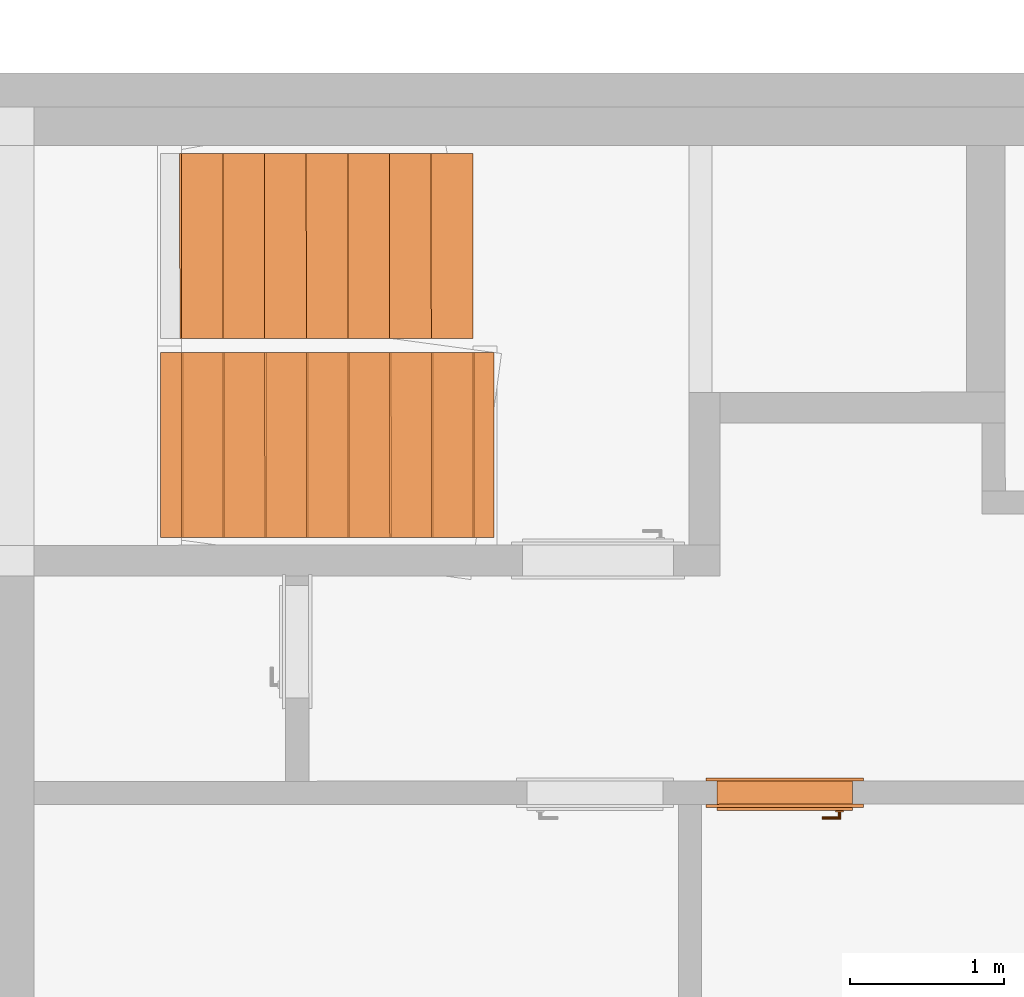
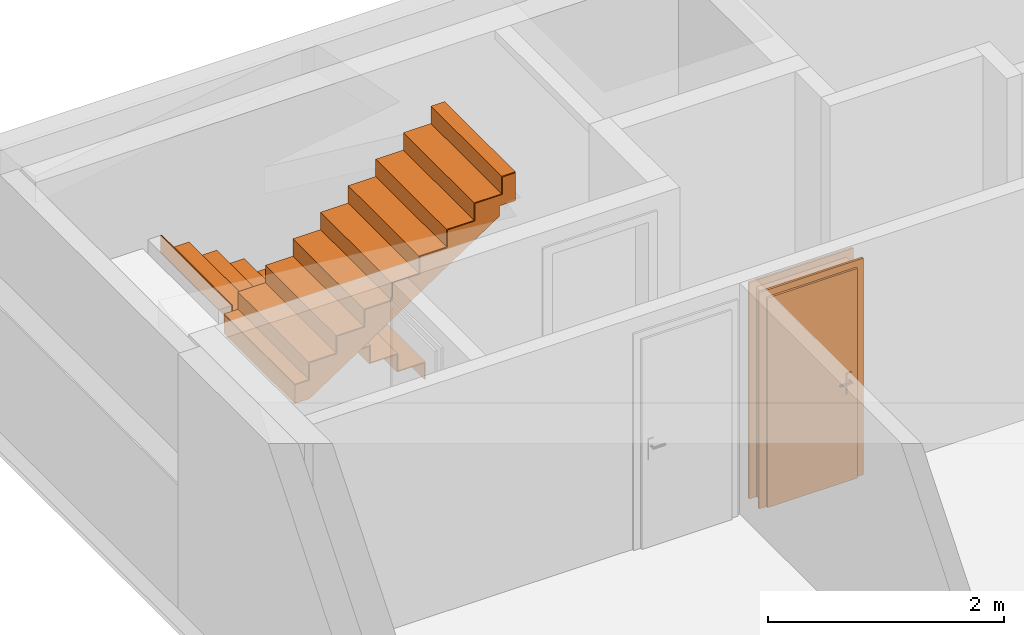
# One storey, part 5 of 9: 4 proxies.
"""IFC2X3 building model written with IfcOpenShell, lengths in metres."""

from ifc_helpers import new_model, entity, si_unit, converted_unit, derived_unit, direction, frame, origin, origin_with_axes, place, context, subcontext, project, spatial, faceted_brep, source, transform, mapped, element, save


model = new_model("IFC2X3")

# Units and contexts
model_context = context("Model", 3, precision=1e-05, world=origin(), true_north=direction((0.772621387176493, -0.634867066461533)))
body_context = subcontext(model_context, "Body", "Model", "MODEL_VIEW")
ifc_project = project(units=[si_unit("LENGTHUNIT", "METRE"), si_unit("AREAUNIT", "SQUARE_METRE"), si_unit("VOLUMEUNIT", "CUBIC_METRE"), si_unit("MASSUNIT", "GRAM", prefix="KILO"), converted_unit("PLANEANGLEUNIT", "DEGREE", entity("IfcPlaneAngleMeasure", 0.0174532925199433), si_unit("PLANEANGLEUNIT", "RADIAN"), dimensions=[0, 0, 0, 0, 0, 0, 0]), derived_unit("THERMALTRANSMITTANCEUNIT", [(si_unit("POWERUNIT", "WATT"), 1), (si_unit("THERMODYNAMICTEMPERATUREUNIT", "KELVIN"), -1), (si_unit("LENGTHUNIT", "METRE"), -2)]), derived_unit("VOLUMETRICFLOWRATEUNIT", [(si_unit("LENGTHUNIT", "METRE"), 3), (converted_unit("TIMEUNIT", "hour", entity("IfcTimeMeasure", 3600.0), si_unit("TIMEUNIT", "SECOND"), dimensions=[0, 0, 1, 0, 0, 0, 0]), -1), (si_unit("LENGTHUNIT", "METRE"), -1)])], contexts=[model_context])

# Site, building, storey
site_placement = place(None, origin())
site = spatial("IfcSite", under=ifc_project, at=site_placement, Name="Modelle auf dem Nullpunkt", CompositionType="ELEMENT")
building_placement = place(site_placement, origin())
building = spatial("IfcBuilding", under=site, at=building_placement, Name="I", CompositionType="ELEMENT")
storey_placement = place(building_placement, origin())
storey = spatial("IfcBuildingStorey", under=building, at=storey_placement, Name="UG", CompositionType="ELEMENT", Elevation=0.0)

# Proxies
shared_shape = source(origin_with_axes(), body_context, "Body", "Brep", [
    faceted_brep([(0.070000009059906, 0.190000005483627, 2.17), (0.070000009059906, 0.190000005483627, 0.0), (0.0900000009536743, 0.190000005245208, 0.0), (0.0900000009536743, 0.190000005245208, 2.17), (0.070000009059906, 0.0, 0.0), (0.070000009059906, 0.0, 2.17), (0.0900000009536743, 0.0, 2.17), (0.0900000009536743, 0.0, 0.0)], [[[0, 1, 2, 3]], [[4, 5, 6, 7]], [[1, 0, 5, 4]], [[2, 1, 4, 7]], [[3, 2, 7, 6]], [[0, 3, 6, 5]]], orient=[[False], [False], [False], [False], [False], [False]]),
    faceted_brep([(0.070000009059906, 0.190000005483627, 2.24), (0.0, 0.190000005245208, 2.24), (0.0, 0.190000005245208, 0.0), (0.070000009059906, 0.190000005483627, 0.0), (0.070000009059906, 0.170000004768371, 0.0), (0.0, 0.170000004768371, 0.0), (0.0, 0.170000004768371, 2.24), (0.070000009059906, 0.170000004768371, 2.24)], [[[0, 1, 2, 3]], [[4, 5, 6, 7]], [[3, 4, 7, 0]], [[2, 5, 4, 3]], [[1, 6, 5, 2]], [[0, 7, 6, 1]]], orient=[[False], [False], [False], [False], [False], [False]]),
    faceted_brep([(0.070000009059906, 0.0200000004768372, 2.24), (0.0, 0.0200000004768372, 2.24), (0.0, 0.0200000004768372, 0.0), (0.070000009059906, 0.0200000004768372, 0.0), (0.070000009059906, 0.0, 0.0), (0.0, 0.0, 0.0), (0.0, 0.0, 2.24), (0.070000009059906, 0.0, 2.24)], [[[0, 1, 2, 3]], [[4, 5, 6, 7]], [[3, 4, 7, 0]], [[2, 5, 4, 3]], [[1, 6, 5, 2]], [[0, 7, 6, 1]]], orient=[[False], [False], [False], [False], [False], [False]]),
    faceted_brep([(0.930000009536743, 0.190000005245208, 2.17), (0.930000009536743, 0.190000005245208, 0.0), (0.950000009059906, 0.190000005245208, 0.0), (0.950000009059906, 0.190000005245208, 2.17), (0.930000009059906, 0.0, 0.0), (0.930000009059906, 0.0, 2.17), (0.950000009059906, 0.0, 2.17), (0.950000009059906, 0.0, 0.0)], [[[0, 1, 2, 3]], [[4, 5, 6, 7]], [[1, 0, 5, 4]], [[2, 1, 4, 7]], [[3, 2, 7, 6]], [[0, 3, 6, 5]]], orient=[[False], [False], [False], [False], [False], [False]]),
    faceted_brep([(0.950000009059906, 0.190000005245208, 2.24), (0.950000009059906, 0.190000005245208, 0.0), (1.02000000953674, 0.190000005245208, 0.0), (1.02000000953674, 0.190000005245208, 2.24), (0.950000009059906, 0.170000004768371, 0.0), (0.950000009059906, 0.170000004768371, 2.24), (1.02000000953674, 0.17000000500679, 2.24), (1.02000000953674, 0.17000000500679, 0.0)], [[[0, 1, 2, 3]], [[4, 5, 6, 7]], [[1, 0, 5, 4]], [[2, 1, 4, 7]], [[3, 2, 7, 6]], [[0, 3, 6, 5]]], orient=[[False], [False], [False], [False], [False], [False]]),
    faceted_brep([(0.950000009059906, 0.0200000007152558, 2.24), (0.950000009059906, 0.0200000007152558, 0.0), (1.02000001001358, 0.0200000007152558, 0.0), (1.02000001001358, 0.0200000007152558, 2.24), (0.950000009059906, 0.0, 0.0), (0.950000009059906, 0.0, 2.24), (1.02000001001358, 0.0, 2.24), (1.02000001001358, 0.0, 0.0)], [[[0, 1, 2, 3]], [[4, 5, 6, 7]], [[1, 0, 5, 4]], [[2, 1, 4, 7]], [[3, 2, 7, 6]], [[0, 3, 6, 5]]], orient=[[False], [False], [False], [False], [False], [False]]),
    faceted_brep([(0.0900000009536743, 0.190000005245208, 2.17), (0.0900000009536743, 0.190000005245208, 2.15), (0.930000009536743, 0.190000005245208, 2.15), (0.930000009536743, 0.190000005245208, 2.17), (0.0900000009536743, 0.0, 2.15), (0.0900000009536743, 0.0, 2.17), (0.930000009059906, 0.0, 2.17), (0.930000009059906, 0.0, 2.15)], [[[0, 1, 2, 3]], [[4, 5, 6, 7]], [[1, 0, 5, 4]], [[2, 1, 4, 7]], [[3, 2, 7, 6]], [[0, 3, 6, 5]]], orient=[[False], [False], [False], [False], [False], [False]]),
    faceted_brep([(0.070000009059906, 0.190000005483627, 2.24), (0.070000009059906, 0.190000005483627, 2.17), (0.950000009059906, 0.190000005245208, 2.17), (0.950000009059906, 0.190000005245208, 2.24), (0.070000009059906, 0.170000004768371, 2.17), (0.070000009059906, 0.170000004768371, 2.24), (0.950000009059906, 0.170000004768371, 2.24), (0.950000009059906, 0.170000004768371, 2.17)], [[[0, 1, 2, 3]], [[4, 5, 6, 7]], [[1, 0, 5, 4]], [[2, 1, 4, 7]], [[3, 2, 7, 6]], [[0, 3, 6, 5]]], orient=[[False], [False], [False], [False], [False], [False]]),
    faceted_brep([(0.070000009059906, 0.0200000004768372, 2.24), (0.070000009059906, 0.0200000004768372, 2.17), (0.950000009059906, 0.0200000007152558, 2.17), (0.950000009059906, 0.0200000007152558, 2.24), (0.070000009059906, 0.0, 2.17), (0.070000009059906, 0.0, 2.24), (0.950000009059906, 0.0, 2.24), (0.950000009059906, 0.0, 2.17)], [[[0, 1, 2, 3]], [[4, 5, 6, 7]], [[1, 0, 5, 4]], [[2, 1, 4, 7]], [[3, 2, 7, 6]], [[0, 3, 6, 5]]], orient=[[False], [False], [False], [False], [False], [False]]),
    faceted_brep([(0.070000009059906, 0.210000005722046, 2.17), (0.070000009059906, 0.210000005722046, 0.0), (0.950000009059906, 0.210000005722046, 0.0), (0.950000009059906, 0.210000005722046, 2.17), (0.070000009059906, 0.170000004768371, 0.0), (0.070000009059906, 0.170000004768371, 2.17), (0.950000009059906, 0.170000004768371, 2.17), (0.950000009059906, 0.170000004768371, 0.0)], [[[0, 1, 2, 3]], [[4, 5, 6, 7]], [[1, 0, 5, 4]], [[2, 1, 4, 7]], [[3, 2, 7, 6]], [[0, 3, 6, 5]]], orient=[[False], [False], [False], [False], [False], [False]]),
    faceted_brep([(0.130000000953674, 0.17000000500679, 1.125), (0.130000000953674, 0.17000000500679, 0.91), (0.180000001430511, 0.170000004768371, 0.91), (0.180000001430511, 0.170000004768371, 1.125), (0.130000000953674, 0.160000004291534, 0.91), (0.130000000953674, 0.160000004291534, 1.125), (0.180000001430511, 0.160000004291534, 1.125), (0.180000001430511, 0.160000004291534, 0.91)], [[[0, 1, 2, 3]], [[4, 5, 6, 7]], [[1, 0, 5, 4]], [[2, 1, 4, 7]], [[3, 2, 7, 6]], [[0, 3, 6, 5]]], orient=[[False], [False], [False], [False], [False], [False]]),
    faceted_brep([(0.155000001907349, 0.160000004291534, 1.06), (0.150000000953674, 0.160000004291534, 1.05866025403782), (0.146339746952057, 0.160000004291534, 1.055), (0.145000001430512, 0.160000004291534, 1.05), (0.146339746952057, 0.160000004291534, 1.045), (0.150000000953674, 0.160000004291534, 1.04133974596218), (0.155000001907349, 0.160000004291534, 1.04), (0.160000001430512, 0.160000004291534, 1.04133974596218), (0.163660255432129, 0.160000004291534, 1.045), (0.165000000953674, 0.160000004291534, 1.05), (0.163660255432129, 0.160000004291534, 1.055), (0.160000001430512, 0.160000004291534, 1.05866025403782), (0.155000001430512, 0.12000000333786, 1.06), (0.150000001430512, 0.11500000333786, 1.05866025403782), (0.146339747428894, 0.111339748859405, 1.055), (0.145000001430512, 0.110000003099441, 1.05), (0.146339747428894, 0.111339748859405, 1.045), (0.150000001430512, 0.11500000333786, 1.04133974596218), (0.155000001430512, 0.12000000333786, 1.04), (0.160000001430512, 0.125000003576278, 1.04133974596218), (0.163660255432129, 0.128660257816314, 1.045), (0.165000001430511, 0.130000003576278, 1.05), (0.163660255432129, 0.128660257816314, 1.055), (0.160000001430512, 0.125000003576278, 1.05866025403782), (0.270000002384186, 0.12000000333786, 1.06), (0.270000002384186, 0.125000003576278, 1.05866025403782), (0.270000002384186, 0.128660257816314, 1.055), (0.270000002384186, 0.130000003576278, 1.05), (0.270000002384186, 0.128660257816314, 1.045), (0.270000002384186, 0.125000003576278, 1.04133974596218), (0.270000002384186, 0.12000000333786, 1.04), (0.270000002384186, 0.115000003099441, 1.04133974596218), (0.270000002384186, 0.111339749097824, 1.045), (0.270000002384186, 0.110000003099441, 1.05), (0.270000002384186, 0.111339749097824, 1.055), (0.270000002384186, 0.115000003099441, 1.05866025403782)], [[[0, 1, 2, 3, 4, 5, 6, 7, 8, 9, 10, 11]], [[0, 12, 13, 1]], [[1, 13, 14, 2]], [[2, 14, 15, 3]], [[3, 15, 16, 4]], [[4, 16, 17, 5]], [[5, 17, 18, 6]], [[6, 18, 19, 7]], [[7, 19, 20, 8]], [[8, 20, 21, 9]], [[9, 21, 22, 10]], [[10, 22, 23, 11]], [[11, 23, 12, 0]], [[24, 25, 26, 27, 28, 29, 30, 31, 32, 33, 34, 35]], [[12, 24, 35, 13]], [[13, 35, 34, 14]], [[14, 34, 33, 15]], [[15, 33, 32, 16]], [[16, 32, 31, 17]], [[17, 31, 30, 18]], [[18, 30, 29, 19]], [[19, 29, 28, 20]], [[20, 28, 27, 21]], [[21, 27, 26, 22]], [[22, 26, 25, 23]], [[23, 25, 24, 12]]], orient=[[False], [False], [False], [False], [False], [False], [False], [False], [False], [False], [False], [False], [False], [False], [False], [False], [False], [False], [False], [False], [False], [False], [False], [False], [False], [False]]),
    faceted_brep([(0.130000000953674, 0.210000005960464, 1.125), (0.180000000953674, 0.210000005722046, 1.125), (0.180000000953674, 0.210000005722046, 0.91), (0.130000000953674, 0.210000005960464, 0.91), (0.130000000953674, 0.220000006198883, 0.91), (0.180000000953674, 0.220000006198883, 0.91), (0.180000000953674, 0.220000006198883, 1.125), (0.130000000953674, 0.220000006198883, 1.125)], [[[0, 1, 2, 3]], [[4, 5, 6, 7]], [[3, 4, 7, 0]], [[2, 5, 4, 3]], [[1, 6, 5, 2]], [[0, 7, 6, 1]]], orient=[[False], [False], [False], [False], [False], [False]]),
    faceted_brep([(0.155000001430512, 0.220000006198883, 1.06), (0.160000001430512, 0.220000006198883, 1.05866025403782), (0.163660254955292, 0.220000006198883, 1.055), (0.165000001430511, 0.220000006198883, 1.05), (0.163660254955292, 0.220000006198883, 1.045), (0.160000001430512, 0.220000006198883, 1.04133974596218), (0.155000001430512, 0.220000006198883, 1.04), (0.150000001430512, 0.220000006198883, 1.04133974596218), (0.146339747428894, 0.220000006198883, 1.045), (0.145000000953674, 0.220000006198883, 1.05), (0.146339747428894, 0.220000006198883, 1.055), (0.150000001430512, 0.220000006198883, 1.05866025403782), (0.150000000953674, 0.265000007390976, 1.05866025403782), (0.155000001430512, 0.260000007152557, 1.06), (0.146339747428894, 0.268660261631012, 1.055), (0.145000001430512, 0.270000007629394, 1.05), (0.146339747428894, 0.268660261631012, 1.045), (0.150000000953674, 0.265000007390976, 1.04133974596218), (0.155000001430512, 0.260000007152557, 1.04), (0.160000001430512, 0.255000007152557, 1.04133974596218), (0.163660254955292, 0.251339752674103, 1.045), (0.165000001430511, 0.250000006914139, 1.05), (0.163660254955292, 0.251339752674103, 1.055), (0.160000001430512, 0.255000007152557, 1.05866025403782), (0.270000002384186, 0.260000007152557, 1.06), (0.270000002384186, 0.265000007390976, 1.05866025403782), (0.270000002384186, 0.268660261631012, 1.055), (0.270000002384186, 0.270000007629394, 1.05), (0.270000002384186, 0.268660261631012, 1.045), (0.270000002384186, 0.265000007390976, 1.04133974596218), (0.270000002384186, 0.260000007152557, 1.04), (0.270000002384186, 0.255000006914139, 1.04133974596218), (0.270000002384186, 0.251339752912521, 1.045), (0.270000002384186, 0.250000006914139, 1.05), (0.270000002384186, 0.251339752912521, 1.055), (0.270000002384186, 0.255000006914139, 1.05866025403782)], [[[0, 1, 2, 3, 4, 5, 6, 7, 8, 9, 10, 11]], [[0, 11, 12, 13]], [[11, 10, 14, 12]], [[10, 9, 15, 14]], [[9, 8, 16, 15]], [[8, 7, 17, 16]], [[7, 6, 18, 17]], [[6, 5, 19, 18]], [[5, 4, 20, 19]], [[4, 3, 21, 20]], [[3, 2, 22, 21]], [[2, 1, 23, 22]], [[1, 0, 13, 23]], [[24, 25, 26, 27, 28, 29, 30, 31, 32, 33, 34, 35]], [[13, 12, 25, 24]], [[12, 14, 26, 25]], [[14, 15, 27, 26]], [[15, 16, 28, 27]], [[16, 17, 29, 28]], [[17, 18, 30, 29]], [[18, 19, 31, 30]], [[19, 20, 32, 31]], [[20, 21, 33, 32]], [[21, 22, 34, 33]], [[22, 23, 35, 34]], [[23, 13, 24, 35]]], orient=[[False], [False], [False], [False], [False], [False], [False], [False], [False], [False], [False], [False], [False], [False], [False], [False], [False], [False], [False], [False], [False], [False], [False], [False], [False], [False]]),
])
proxy_1_placement = place(storey_placement, frame((35.1934673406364, -2.16132659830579, 433.22), z_axis=(0.0, 0.0, 1.0), x_axis=(-0.999999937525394, -0.000353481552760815, 0.0)))
element("IfcBuildingElementProxy", 1, at=proxy_1_placement, inside=storey, Name="1flg Weiß UZ außen", context=body_context, shape_type="MappedRepresentation", body=[
    mapped(shared_shape, transform((0.0, 0.0, 0.0), x_axis=(1.0, 0.0, 0.0), y_axis=(0.0, 1.0, 0.0), z_axis=(0.0, 0.0, 1.0), scale=1.0)),
])
proxy_2_placement = place(storey_placement, frame((30.6378224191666, -0.602936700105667, 434.487745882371)))
element("IfcBuildingElementProxy", 2, at=proxy_2_placement, inside=storey, context=body_context, shape_type="Brep", body=[
    faceted_brep([(2.1600736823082, 1.20076347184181, 1.3442015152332), (2.1600736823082, 1.20076347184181, 1.63232907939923), (2.0350601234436, 1.20071928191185, 1.63232907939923), (2.0350601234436, 1.20071928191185, 1.45232370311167), (1.76505181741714, 1.20062383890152, 1.45232370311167), (1.76505181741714, 1.20062383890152, 1.27231781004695), (1.49504299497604, 1.20052839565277, 1.27231781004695), (1.49504299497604, 1.20052839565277, 1.09231191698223), (1.22503417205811, 1.20043295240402, 1.09231191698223), (1.22503417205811, 1.20043295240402, 0.91230602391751), (0.955025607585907, 1.20033750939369, 0.91230602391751), (0.955025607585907, 1.20033750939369, 0.732300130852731), (0.685016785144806, 1.20024206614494, 0.732300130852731), (0.685016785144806, 1.20024206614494, 0.55229423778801), (0.415012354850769, 1.20014662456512, 0.55229423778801), (0.415012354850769, 1.20014662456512, 0.372288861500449), (0.145003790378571, 1.20005118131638, 0.372288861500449), (0.145003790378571, 1.20005118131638, 0.192282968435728), (0.0, 1.19999992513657, 0.192282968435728), (0.0, 1.19999992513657, 0.0), (0.145003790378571, 1.20005118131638, 0.0), (2.00504519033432, 1.20070867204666, 1.24001665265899), (2.00504519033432, 1.20070867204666, 1.3442015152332), (2.16049786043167, 0.000763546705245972, 1.3442015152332), (2.00546936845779, 0.000708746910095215, 1.3442015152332), (2.00546936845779, 0.000708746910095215, 1.24001665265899), (0.145427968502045, 5.12561798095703e-05, 0.0), (0.000424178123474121, 0.0, 0.0), (0.000424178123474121, 0.0, 0.192282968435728), (0.145427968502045, 5.12561798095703e-05, 0.192282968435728), (0.145427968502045, 5.12561798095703e-05, 0.372288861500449), (0.415436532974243, 0.00014669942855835, 0.372288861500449), (0.415436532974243, 0.00014669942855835, 0.55229423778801), (0.68544096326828, 0.000242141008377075, 0.55229423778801), (0.68544096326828, 0.000242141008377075, 0.732300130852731), (0.955449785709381, 0.000337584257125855, 0.732300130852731), (0.955449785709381, 0.000337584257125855, 0.91230602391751), (1.22545835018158, 0.000433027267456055, 0.91230602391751), (1.22545835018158, 0.000433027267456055, 1.09231191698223), (1.49546717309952, 0.000528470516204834, 1.09231191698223), (1.49546717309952, 0.000528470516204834, 1.27231781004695), (1.76547599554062, 0.000623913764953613, 1.27231781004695), (1.76547599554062, 0.000623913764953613, 1.45232370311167), (2.03548430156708, 0.000719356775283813, 1.45232370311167), (2.03548430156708, 0.000719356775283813, 1.63232907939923), (2.16049786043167, 0.000763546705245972, 1.63232907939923)], [[[0, 1, 2, 3, 4, 5, 6, 7, 8, 9, 10, 11, 12, 13, 14, 15, 16, 17, 18, 19, 20, 21, 22]], [[23, 24, 25, 26, 27, 28, 29, 30, 31, 32, 33, 34, 35, 36, 37, 38, 39, 40, 41, 42, 43, 44, 45]], [[45, 1, 0, 23]], [[44, 2, 1, 45]], [[43, 3, 2, 44]], [[42, 4, 3, 43]], [[41, 5, 4, 42]], [[40, 6, 5, 41]], [[39, 7, 6, 40]], [[38, 8, 7, 39]], [[37, 9, 8, 38]], [[36, 10, 9, 37]], [[35, 11, 10, 36]], [[34, 12, 11, 35]], [[33, 13, 12, 34]], [[32, 14, 13, 33]], [[31, 15, 14, 32]], [[30, 16, 15, 31]], [[29, 17, 16, 30]], [[28, 18, 17, 29]], [[27, 19, 18, 28]], [[26, 20, 19, 27]], [[25, 21, 20, 26]], [[24, 22, 21, 25]], [[23, 0, 22, 24]]], orient=[[False], [False], [False], [False], [False], [False], [False], [False], [False], [False], [False], [False], [False], [False], [False], [False], [False], [False], [False], [False], [False], [False], [False], [False], [False]]),
])
proxy_3_placement = place(storey_placement, frame((30.6378224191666, -0.602936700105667, 434.680028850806)))
element("IfcBuildingElementProxy", 3, at=proxy_3_placement, inside=storey, context=body_context, shape_type="Brep", body=[
    faceted_brep([(1.49504299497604, 1.20052839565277, 1.08003484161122), (1.76505181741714, 1.20062383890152, 1.08003484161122), (1.76505181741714, 1.20062383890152, 1.26004073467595), (2.0350601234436, 1.20071928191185, 1.26004073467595), (2.0350601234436, 1.20071928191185, 1.44004611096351), (2.1600736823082, 1.20076347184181, 1.44004611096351), (2.1600736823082, 1.20076347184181, 1.45003748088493), (2.02506927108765, 1.20071575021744, 1.45003748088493), (2.02506927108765, 1.20071575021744, 1.27003158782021), (1.75506096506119, 1.20062030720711, 1.27003158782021), (1.75506096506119, 1.20062030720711, 1.09002569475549), (1.48505214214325, 1.20052486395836, 1.09002569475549), (1.48505214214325, 1.20052486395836, 0.910019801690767), (1.21503065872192, 1.20042941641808, 0.910019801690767), (1.21503065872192, 1.20042941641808, 0.730013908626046), (0.945026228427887, 1.20033397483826, 0.730013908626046), (0.945026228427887, 1.20033397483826, 0.550008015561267), (0.675017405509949, 1.20023853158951, 0.550008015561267), (0.675017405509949, 1.20023853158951, 0.370002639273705), (0.405012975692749, 1.20014308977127, 0.370002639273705), (0.405012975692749, 1.20014308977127, 0.189996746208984), (0.135004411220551, 1.20004764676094, 0.189996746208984), (0.135004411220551, 1.20004764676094, 0.00999085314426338), (0.0, 1.19999992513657, 0.00999085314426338), (0.0, 1.19999992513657, 0.0), (0.145003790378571, 1.20005118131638, 0.0), (0.145003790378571, 1.20005118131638, 0.180005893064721), (0.415012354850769, 1.20014662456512, 0.180005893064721), (0.415012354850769, 1.20014662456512, 0.360011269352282), (0.685016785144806, 1.20024206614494, 0.360011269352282), (0.685016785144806, 1.20024206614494, 0.540017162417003), (0.955025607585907, 1.20033750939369, 0.540017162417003), (0.955025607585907, 1.20033750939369, 0.720023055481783), (1.22503417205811, 1.20043295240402, 0.720023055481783), (1.22503417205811, 1.20043295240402, 0.900028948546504), (1.49504299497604, 1.20052839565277, 0.900028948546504), (1.49546717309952, 0.000528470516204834, 1.08003484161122), (1.49546717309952, 0.000528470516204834, 0.900028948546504), (1.22545835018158, 0.000433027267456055, 0.900028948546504), (1.22545835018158, 0.000433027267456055, 0.720023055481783), (0.955449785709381, 0.000337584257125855, 0.720023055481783), (0.955449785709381, 0.000337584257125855, 0.540017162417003), (0.68544096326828, 0.000242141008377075, 0.540017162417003), (0.68544096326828, 0.000242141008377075, 0.360011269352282), (0.415436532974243, 0.00014669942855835, 0.360011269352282), (0.415436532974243, 0.00014669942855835, 0.180005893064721), (0.145427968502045, 5.12561798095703e-05, 0.180005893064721), (0.145427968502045, 5.12561798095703e-05, 0.0), (0.000424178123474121, 0.0, 0.0), (0.000424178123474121, 0.0, 0.00999085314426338), (0.135428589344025, 4.77216243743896e-05, 0.00999085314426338), (0.135428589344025, 4.77216243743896e-05, 0.189996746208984), (0.405437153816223, 0.00014316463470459, 0.189996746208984), (0.405437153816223, 0.00014316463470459, 0.370002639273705), (0.675441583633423, 0.000238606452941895, 0.370002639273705), (0.675441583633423, 0.000238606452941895, 0.550008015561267), (0.945450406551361, 0.000334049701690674, 0.550008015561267), (0.945450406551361, 0.000334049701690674, 0.730013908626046), (1.2154548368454, 0.000429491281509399, 0.730013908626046), (1.2154548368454, 0.000429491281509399, 0.910019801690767), (1.48547632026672, 0.000524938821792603, 0.910019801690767), (1.48547632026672, 0.000524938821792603, 1.09002569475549), (1.75548514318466, 0.000620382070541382, 1.09002569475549), (1.75548514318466, 0.000620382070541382, 1.27003158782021), (2.02549344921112, 0.000715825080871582, 1.27003158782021), (2.02549344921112, 0.000715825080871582, 1.45003748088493), (2.16049786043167, 0.000763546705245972, 1.45003748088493), (2.16049786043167, 0.000763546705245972, 1.44004611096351), (2.03548430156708, 0.000719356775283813, 1.44004611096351), (2.03548430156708, 0.000719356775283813, 1.26004073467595), (1.76547599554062, 0.000623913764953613, 1.26004073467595), (1.76547599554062, 0.000623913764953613, 1.08003484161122)], [[[0, 1, 2, 3, 4, 5, 6, 7, 8, 9, 10, 11, 12, 13, 14, 15, 16, 17, 18, 19, 20, 21, 22, 23, 24, 25, 26, 27, 28, 29, 30, 31, 32, 33, 34, 35]], [[36, 37, 38, 39, 40, 41, 42, 43, 44, 45, 46, 47, 48, 49, 50, 51, 52, 53, 54, 55, 56, 57, 58, 59, 60, 61, 62, 63, 64, 65, 66, 67, 68, 69, 70, 71]], [[71, 1, 0, 36]], [[70, 2, 1, 71]], [[69, 3, 2, 70]], [[68, 4, 3, 69]], [[67, 5, 4, 68]], [[66, 6, 5, 67]], [[65, 7, 6, 66]], [[64, 8, 7, 65]], [[63, 9, 8, 64]], [[62, 10, 9, 63]], [[61, 11, 10, 62]], [[60, 12, 11, 61]], [[59, 13, 12, 60]], [[58, 14, 13, 59]], [[57, 15, 14, 58]], [[56, 16, 15, 57]], [[55, 17, 16, 56]], [[54, 18, 17, 55]], [[53, 19, 18, 54]], [[52, 20, 19, 53]], [[51, 21, 20, 52]], [[50, 22, 21, 51]], [[49, 23, 22, 50]], [[48, 24, 23, 49]], [[47, 25, 24, 48]], [[46, 26, 25, 47]], [[45, 27, 26, 46]], [[44, 28, 27, 45]], [[43, 29, 28, 44]], [[42, 30, 29, 43]], [[41, 31, 30, 42]], [[40, 32, 31, 41]], [[39, 33, 32, 40]], [[38, 34, 33, 39]], [[37, 35, 34, 38]], [[36, 0, 35, 37]]], orient=[[False], [False], [False], [False], [False], [False], [False], [False], [False], [False], [False], [False], [False], [False], [False], [False], [False], [False], [False], [False], [False], [False], [False], [False], [False], [False], [False], [False], [False], [False], [False], [False], [False], [False], [False], [False], [False], [False]]),
])
proxy_4_placement = place(storey_placement, frame((30.7618682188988, 0.687107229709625, 433.250015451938)))
element("IfcBuildingElementProxy", 4, at=proxy_4_placement, inside=storey, context=body_context, shape_type="Brep", body=[
    faceted_brep([(0.820021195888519, 1.20028978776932, 0.899986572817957), (0.550012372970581, 1.20019434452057, 0.899986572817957), (0.550012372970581, 1.20019434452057, 1.07999246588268), (0.280007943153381, 1.20009890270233, 1.07999246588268), (0.280007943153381, 1.20009890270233, 1.25999835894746), (0.00999937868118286, 1.200003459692, 1.25999835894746), (0.00999937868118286, 1.200003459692, 1.43001339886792), (0.0, 1.19999992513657, 1.43001339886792), (0.0, 1.19999992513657, 1.25000750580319), (0.270008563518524, 1.2000953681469, 1.25000750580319), (0.270008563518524, 1.2000953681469, 1.07000161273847), (0.540012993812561, 1.20019080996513, 1.07000161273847), (0.540012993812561, 1.20019080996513, 0.889995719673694), (0.810021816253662, 1.20028625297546, 0.889995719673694), (0.810021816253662, 1.20028625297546, 0.709989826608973), (1.0800262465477, 1.2003816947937, 0.709989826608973), (1.0800262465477, 1.2003816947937, 0.529983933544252), (1.35001388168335, 1.20047713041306, 0.529983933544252), (1.35001388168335, 1.20047713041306, 0.349978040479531), (1.62002270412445, 1.2005725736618, 0.349978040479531), (1.62002270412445, 1.2005725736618, 0.16997214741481), (1.89003101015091, 1.20066801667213, 0.16997214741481), (1.89003101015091, 1.20066801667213, 0.0), (1.90006423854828, 1.2006715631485, 0.0), (1.90006423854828, 1.2006715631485, 0.180005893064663), (1.63005593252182, 1.20057612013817, 0.180005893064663), (1.63005593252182, 1.20057612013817, 0.360011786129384), (1.36004710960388, 1.20048067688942, 0.360011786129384), (1.36004710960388, 1.20048067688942, 0.540017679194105), (1.09002562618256, 1.20038522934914, 0.540017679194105), (1.09002562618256, 1.20038522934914, 0.720023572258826), (0.820021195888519, 1.20028978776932, 0.720023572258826), (0.820445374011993, 0.000289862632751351, 0.899986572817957), (0.820445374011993, 0.000289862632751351, 0.720023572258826), (1.09044980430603, 0.000385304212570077, 0.720023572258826), (1.09044980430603, 0.000385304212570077, 0.540017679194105), (1.36047128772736, 0.00048075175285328, 0.540017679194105), (1.36047128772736, 0.00048075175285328, 0.360011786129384), (1.63048011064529, 0.000576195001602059, 0.360011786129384), (1.63048011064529, 0.000576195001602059, 0.180005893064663), (1.90048841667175, 0.000671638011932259, 0.180005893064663), (1.90048841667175, 0.000671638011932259, 0.0), (1.89045518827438, 0.000668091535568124, 0.0), (1.89045518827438, 0.000668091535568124, 0.16997214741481), (1.62044688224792, 0.000572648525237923, 0.16997214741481), (1.62044688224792, 0.000572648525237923, 0.349978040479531), (1.35043805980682, 0.000477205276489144, 0.349978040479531), (1.35043805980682, 0.000477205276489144, 0.529983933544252), (1.08045042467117, 0.000381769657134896, 0.529983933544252), (1.08045042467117, 0.000381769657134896, 0.709989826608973), (0.810445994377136, 0.000286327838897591, 0.709989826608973), (0.810445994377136, 0.000286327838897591, 0.889995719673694), (0.540437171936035, 0.000190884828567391, 0.889995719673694), (0.540437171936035, 0.000190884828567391, 1.07000161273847), (0.270432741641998, 9.54430103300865e-05, 1.07000161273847), (0.270432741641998, 9.54430103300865e-05, 1.25000750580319), (0.000424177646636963, 0.0, 1.25000750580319), (0.000424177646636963, 0.0, 1.43001339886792), (0.010423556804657, 3.53455543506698e-06, 1.43001339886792), (0.010423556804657, 3.53455543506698e-06, 1.25999835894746), (0.280432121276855, 9.89775657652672e-05, 1.25999835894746), (0.280432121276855, 9.89775657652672e-05, 1.07999246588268), (0.550436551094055, 0.000194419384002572, 1.07999246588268), (0.550436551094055, 0.000194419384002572, 0.899986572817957)], [[[0, 1, 2, 3, 4, 5, 6, 7, 8, 9, 10, 11, 12, 13, 14, 15, 16, 17, 18, 19, 20, 21, 22, 23, 24, 25, 26, 27, 28, 29, 30, 31]], [[32, 33, 34, 35, 36, 37, 38, 39, 40, 41, 42, 43, 44, 45, 46, 47, 48, 49, 50, 51, 52, 53, 54, 55, 56, 57, 58, 59, 60, 61, 62, 63]], [[63, 1, 0, 32]], [[62, 2, 1, 63]], [[61, 3, 2, 62]], [[60, 4, 3, 61]], [[59, 5, 4, 60]], [[58, 6, 5, 59]], [[57, 7, 6, 58]], [[56, 8, 7, 57]], [[55, 9, 8, 56]], [[54, 10, 9, 55]], [[53, 11, 10, 54]], [[52, 12, 11, 53]], [[51, 13, 12, 52]], [[50, 14, 13, 51]], [[49, 15, 14, 50]], [[48, 16, 15, 49]], [[47, 17, 16, 48]], [[46, 18, 17, 47]], [[45, 19, 18, 46]], [[44, 20, 19, 45]], [[43, 21, 20, 44]], [[42, 22, 21, 43]], [[41, 23, 22, 42]], [[40, 24, 23, 41]], [[39, 25, 24, 40]], [[38, 26, 25, 39]], [[37, 27, 26, 38]], [[36, 28, 27, 37]], [[35, 29, 28, 36]], [[34, 30, 29, 35]], [[33, 31, 30, 34]], [[32, 0, 31, 33]]], orient=[[False], [False], [False], [False], [False], [False], [False], [False], [False], [False], [False], [False], [False], [False], [False], [False], [False], [False], [False], [False], [False], [False], [False], [False], [False], [False], [False], [False], [False], [False], [False], [False], [False], [False]]),
])

save(model, "model.ifc")
